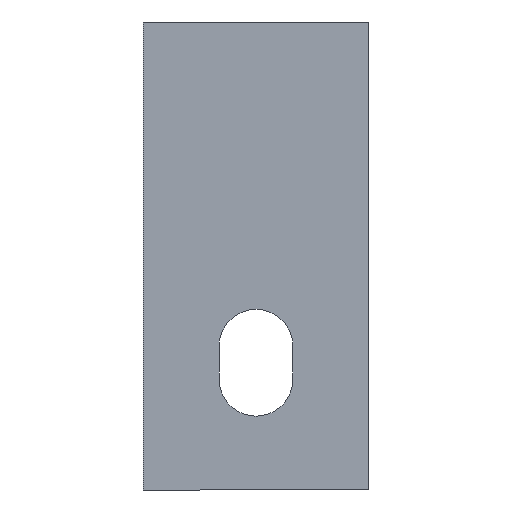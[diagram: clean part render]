
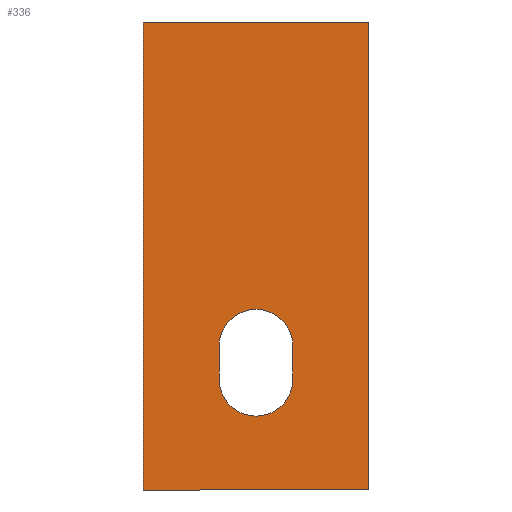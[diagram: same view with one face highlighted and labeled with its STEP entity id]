
A CAD part, front view. The second image highlights one B-rep face of the part: STEP entity #336.
In plain terms, the highlighted planar face has unit normal (0, -1, 0).
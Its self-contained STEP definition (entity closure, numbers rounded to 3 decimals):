
#5 = LINE ( 'NONE', #277, #239 ) ;
#6 = LINE ( 'NONE', #339, #275 ) ;
#7 = DIRECTION ( 'NONE',  ( -1., 0., 0. ) ) ;
#9 = CARTESIAN_POINT ( 'NONE',  ( 27.5, 0., -79. ) ) ;
#14 = ORIENTED_EDGE ( 'NONE', *, *, #263, .F. ) ;
#15 = VECTOR ( 'NONE', #127, 1000. ) ;
#26 = LINE ( 'NONE', #281, #15 ) ;
#30 = AXIS2_PLACEMENT_3D ( 'NONE', #342, #216, #89 ) ;
#40 = EDGE_LOOP ( 'NONE', ( #124, #332, #140, #198, #310 ) ) ;
#43 = EDGE_CURVE ( 'NONE', #205, #359, #347, .T. ) ;
#50 = CARTESIAN_POINT ( 'NONE',  ( 55., 0., 0. ) ) ;
#51 = VERTEX_POINT ( 'NONE', #211 ) ;
#57 = PLANE ( 'NONE',  #30 ) ;
#76 = EDGE_CURVE ( 'NONE', #359, #293, #5, .T. ) ;
#86 = CARTESIAN_POINT ( 'NONE',  ( 27.5, 0., -96. ) ) ;
#87 = DIRECTION ( 'NONE',  ( 0., 1., 0. ) ) ;
#89 = DIRECTION ( 'NONE',  ( 0., 0., -1. ) ) ;
#99 = CIRCLE ( 'NONE', #267, 9. ) ;
#105 = ORIENTED_EDGE ( 'NONE', *, *, #392, .F. ) ;
#111 = DIRECTION ( 'NONE',  ( 0., 1., 0. ) ) ;
#116 = LINE ( 'NONE', #276, #346 ) ;
#118 = FACE_OUTER_BOUND ( 'NONE', #265, .T. ) ;
#124 = ORIENTED_EDGE ( 'NONE', *, *, #377, .T. ) ;
#127 = DIRECTION ( 'NONE',  ( 1., 0., 0. ) ) ;
#137 = VECTOR ( 'NONE', #372, 1000. ) ;
#140 = ORIENTED_EDGE ( 'NONE', *, *, #43, .T. ) ;
#150 = DIRECTION ( 'NONE',  ( 0., 0., -1. ) ) ;
#182 = FACE_BOUND ( 'NONE', #40, .T. ) ;
#185 = CARTESIAN_POINT ( 'NONE',  ( 55., 0., 0. ) ) ;
#193 = LINE ( 'NONE', #50, #137 ) ;
#198 = ORIENTED_EDGE ( 'NONE', *, *, #76, .T. ) ;
#201 = EDGE_CURVE ( 'NONE', #51, #401, #116, .T. ) ;
#203 = DIRECTION ( 'NONE',  ( 0., 1., 0. ) ) ;
#205 = VERTEX_POINT ( 'NONE', #86 ) ;
#206 = CARTESIAN_POINT ( 'NONE',  ( 18.5, 0., -79. ) ) ;
#211 = CARTESIAN_POINT ( 'NONE',  ( 0., 0., -114. ) ) ;
#212 = CARTESIAN_POINT ( 'NONE',  ( 55., 0., -114. ) ) ;
#214 = ORIENTED_EDGE ( 'NONE', *, *, #357, .F. ) ;
#216 = DIRECTION ( 'NONE',  ( 0., -1., 0. ) ) ;
#224 = EDGE_CURVE ( 'NONE', #255, #205, #249, .T. ) ;
#228 = DIRECTION ( 'NONE',  ( 0., 0., 1. ) ) ;
#229 = CARTESIAN_POINT ( 'NONE',  ( 27.5, 0., -87. ) ) ;
#230 = CARTESIAN_POINT ( 'NONE',  ( 0., 0., -114. ) ) ;
#236 = VECTOR ( 'NONE', #7, 1000. ) ;
#238 = DIRECTION ( 'NONE',  ( 0., 0., 1. ) ) ;
#239 = VECTOR ( 'NONE', #288, 1000. ) ;
#245 = CARTESIAN_POINT ( 'NONE',  ( 18.5, 0., -87. ) ) ;
#249 = CIRCLE ( 'NONE', #260, 9. ) ;
#255 = VERTEX_POINT ( 'NONE', #391 ) ;
#258 = LINE ( 'NONE', #230, #236 ) ;
#260 = AXIS2_PLACEMENT_3D ( 'NONE', #229, #111, #264 ) ;
#263 = EDGE_CURVE ( 'NONE', #389, #51, #258, .T. ) ;
#264 = DIRECTION ( 'NONE',  ( 0., 0., -1. ) ) ;
#265 = EDGE_LOOP ( 'NONE', ( #366, #14, #105, #214 ) ) ;
#267 = AXIS2_PLACEMENT_3D ( 'NONE', #9, #203, #228 ) ;
#275 = VECTOR ( 'NONE', #150, 1000. ) ;
#276 = CARTESIAN_POINT ( 'NONE',  ( 0., 0., 0. ) ) ;
#277 = CARTESIAN_POINT ( 'NONE',  ( 18.5, 0., -87. ) ) ;
#281 = CARTESIAN_POINT ( 'NONE',  ( 0., 0., 0. ) ) ;
#288 = DIRECTION ( 'NONE',  ( 0., 0., 1. ) ) ;
#293 = VERTEX_POINT ( 'NONE', #206 ) ;
#294 = VERTEX_POINT ( 'NONE', #326 ) ;
#310 = ORIENTED_EDGE ( 'NONE', *, *, #327, .T. ) ;
#326 = CARTESIAN_POINT ( 'NONE',  ( 36.5, 0., -79. ) ) ;
#327 = EDGE_CURVE ( 'NONE', #293, #294, #99, .T. ) ;
#332 = ORIENTED_EDGE ( 'NONE', *, *, #224, .T. ) ;
#336 = ADVANCED_FACE ( 'NONE', ( #118, #182 ), #57, .T. ) ;
#339 = CARTESIAN_POINT ( 'NONE',  ( 36.5, 0., -87. ) ) ;
#340 = DIRECTION ( 'NONE',  ( 0., 0., -1. ) ) ;
#342 = CARTESIAN_POINT ( 'NONE',  ( 0., 0., 0. ) ) ;
#346 = VECTOR ( 'NONE', #238, 1000. ) ;
#347 = CIRCLE ( 'NONE', #370, 9. ) ;
#357 = EDGE_CURVE ( 'NONE', #401, #383, #26, .T. ) ;
#359 = VERTEX_POINT ( 'NONE', #245 ) ;
#366 = ORIENTED_EDGE ( 'NONE', *, *, #201, .F. ) ;
#369 = CARTESIAN_POINT ( 'NONE',  ( 27.5, 0., -87. ) ) ;
#370 = AXIS2_PLACEMENT_3D ( 'NONE', #369, #87, #340 ) ;
#372 = DIRECTION ( 'NONE',  ( 0., 0., -1. ) ) ;
#377 = EDGE_CURVE ( 'NONE', #294, #255, #6, .T. ) ;
#383 = VERTEX_POINT ( 'NONE', #185 ) ;
#389 = VERTEX_POINT ( 'NONE', #212 ) ;
#391 = CARTESIAN_POINT ( 'NONE',  ( 36.5, 0., -87. ) ) ;
#392 = EDGE_CURVE ( 'NONE', #383, #389, #193, .T. ) ;
#401 = VERTEX_POINT ( 'NONE', #403 ) ;
#403 = CARTESIAN_POINT ( 'NONE',  ( 0., 0., 0. ) ) ;
